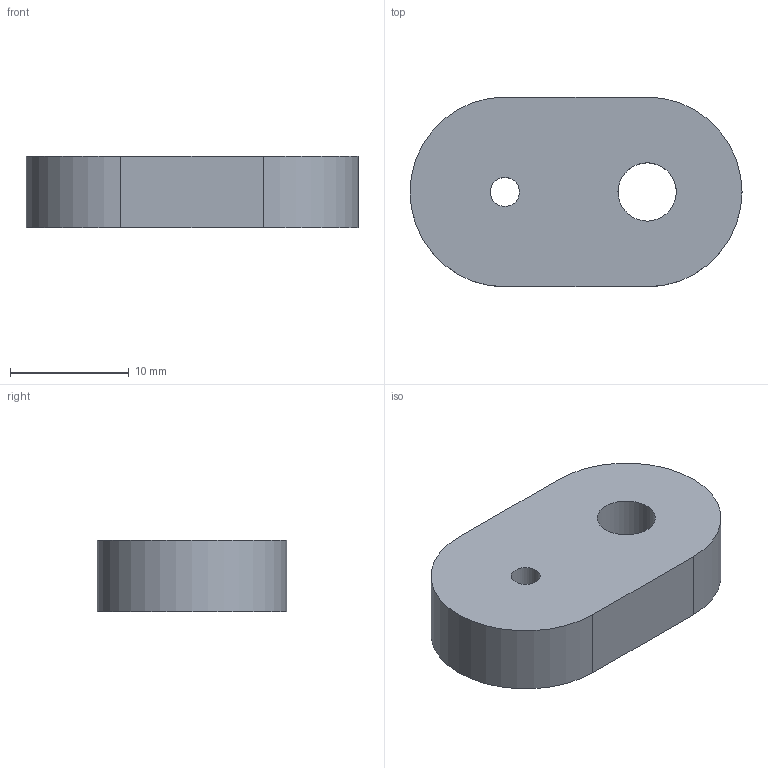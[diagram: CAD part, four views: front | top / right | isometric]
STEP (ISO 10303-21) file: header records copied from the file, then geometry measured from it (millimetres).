
FILE_DESCRIPTION(/* description */ ('CONTRE BRIDE SIMPLE','CAx-IF Rec.Pracs.---Representation and Presentation of Product Manufacturing Information (PMI)---4.0---2014-10-13'),/* implementation_level */ '2;1');
FILE_NAME(/* name */ 'vv810015-A.stp',/* time_stamp */ '2025-09-29T10:10:41+02:00',/* author */ ('ALOCQUE'),/* organization */ (''),/* preprocessor_version */ 'ST-DEVELOPER v20',/* originating_system */ 'Autodesk Inventor 2025',/* authorisation */ '');
FILE_SCHEMA (('AP242_MANAGED_MODEL_BASED_3D_ENGINEERING_MIM_LF { 1 0 10303 442 1 1 4 }'));
Length unit declared in the file: millimetre
Products named in the file (1): VICTOR.V.81.00.15
Bounding box: 28 x 16 x 6 mm (x, y, z)
Volume: 2215.9 mm3; surface area: 1323.3 mm2
Topology: 1 solids, 1 shells, 8 faces, 18 edges, 12 vertices
Faces by surface type: cylinder 4, plane 4
Full cylindrical faces by diameter (mm): 2.459 x1, 4.917 x1
Entity records: 376 total; most frequent: CARTESIAN_POINT 59, DIRECTION 56, ORIENTED_EDGE 36, AXIS2_PLACEMENT_3D 23, EDGE_CURVE 18, STYLED_ITEM 14, EDGE_LOOP 12, VERTEX_POINT 12
